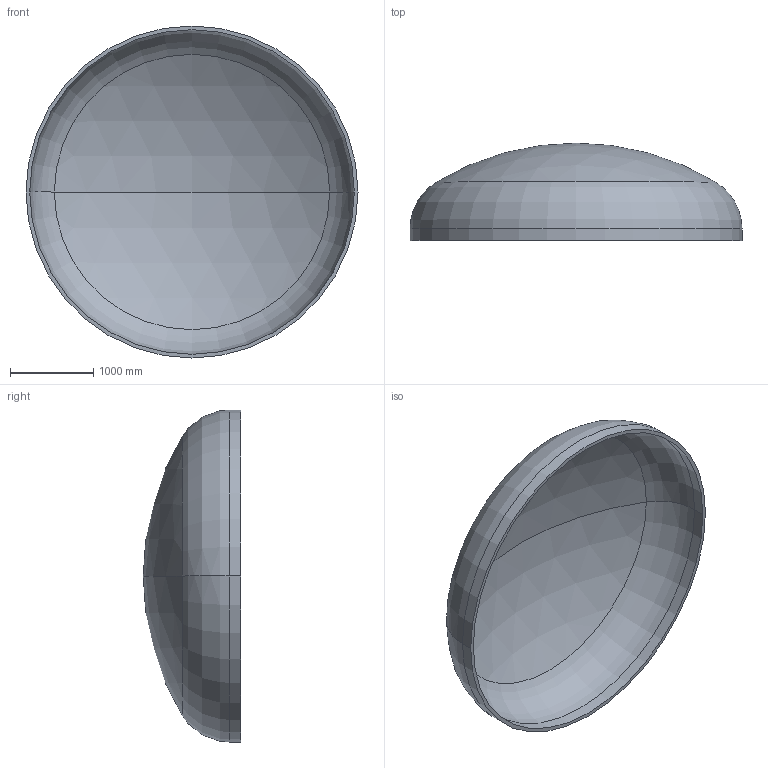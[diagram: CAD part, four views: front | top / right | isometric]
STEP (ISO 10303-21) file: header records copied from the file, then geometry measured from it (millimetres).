
FILE_DESCRIPTION (( 'STEP AP203' ), '1' );
FILE_NAME ('DIN 28013 Korbbogenform_-_Boden DIN 28013 - 4000 x 140 - I - s=45.step', '2016-07-01T22:26:11', ( '' ), ( '' ), 'SwSTEP 2.0', 'SolidWorks 2013', '' );
FILE_SCHEMA (( 'CONFIG_CONTROL_DESIGN' ));
Length unit declared in the file: millimetre
Products named in the file (1): DIN 28013 Korbbogenform_-_Boden DIN 28013 - 4000 x 140 - I - s=45
Bounding box: 4000 x 1174.43 x 4000 mm (x, y, z)
Volume: 849657330 mm3; surface area: 38325900.4 mm2
Topology: 1 solids, 1 shells, 13 faces, 24 edges, 14 vertices
Faces by surface type: torus 4, cylinder 4, sphere 4, plane 1
Entity records: 407 total; most frequent: DIRECTION 72, CARTESIAN_POINT 52, ORIENTED_EDGE 48, AXIS2_PLACEMENT_3D 34, EDGE_CURVE 24, CIRCLE 20, VERTEX_POINT 14, EDGE_LOOP 14
